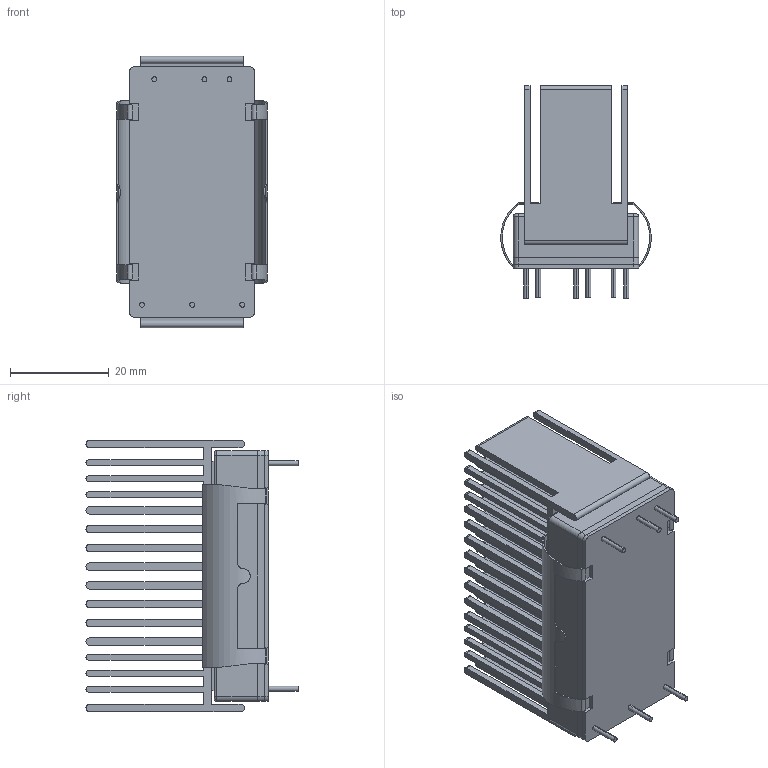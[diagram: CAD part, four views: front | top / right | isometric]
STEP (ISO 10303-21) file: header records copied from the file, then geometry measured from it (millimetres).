
FILE_DESCRIPTION (( 'STEP AP214' ), '1' );
FILE_NAME ('MKZI40-HS7 3D尺寸外觀圖(20240226).STEP', '2024-02-26T10:24:10', ( '' ), ( '' ), 'SwSTEP 2.0', 'SolidWorks 2021', '' );
FILE_SCHEMA (( 'AUTOMOTIVE_DESIGN' ));
Length unit declared in the file: millimetre
Products named in the file (6): MKZI40-HS7 3D尺寸外觀圖(20240226); Hero_20191024-02(MKZI40 導熱矽膠片); MKZI40 夾片-3D外觀尺寸用(20240226); Hero_20191106-01(MKZI40 散熱鰭片)_1.0in(086-HS-51); MKZI40 HS+Clamp(20240226)_HS7; MKZI40 3D尺寸外觀圖(20240226)_default
Assembly tree (6 placements, depth 3):
  MKZI40-HS7 3D尺寸外觀圖(20240226)
    MKZI40 3D尺寸外觀圖(20240226)_default
    MKZI40 HS+Clamp(20240226)_HS7
      Hero_20191106-01(MKZI40 散熱鰭片)_1.0in(086-HS-51)
      Hero_20191024-02(MKZI40 導熱矽膠片)
    MKZI40 夾片-3D外觀尺寸用(20240226)  x2
Bounding box: 30.5 x 43 x 55 mm (x, y, z)
Volume: 26066 mm3; surface area: 32215.7 mm2
Topology: 7 solids, 7 shells, 482 faces, 1332 edges, 884 vertices
Faces by surface type: plane 250, cylinder 212, bspline 16, torus 4
Entity records: 15270 total; most frequent: CARTESIAN_POINT 2975, DIRECTION 2395, ORIENTED_EDGE 2374, EDGE_CURVE 1187, AXIS2_PLACEMENT_3D 817, VERTEX_POINT 788, LINE 761, VECTOR 761
